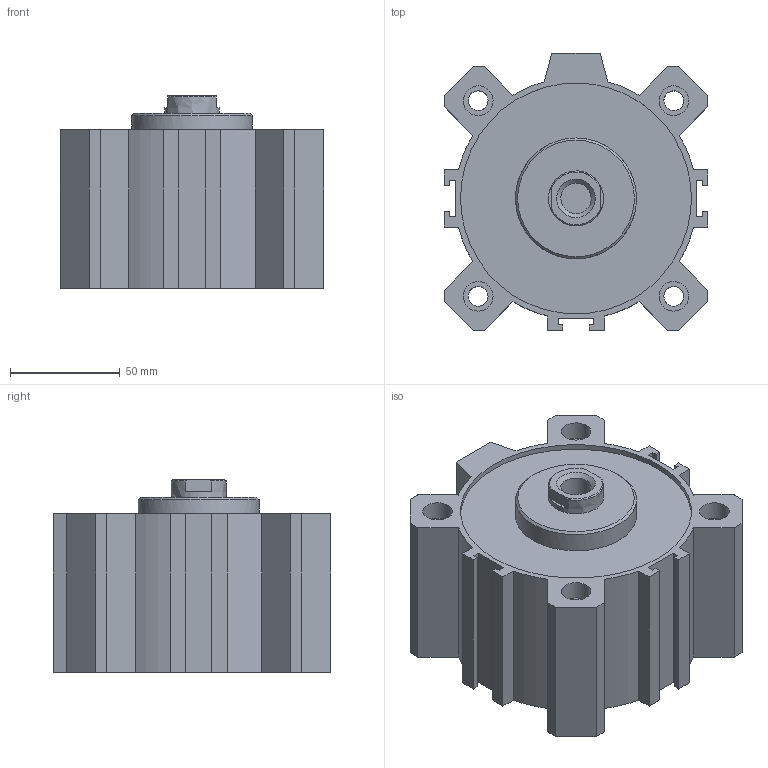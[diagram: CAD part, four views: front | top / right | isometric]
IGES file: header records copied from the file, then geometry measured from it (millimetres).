
Global section: file name: 1511_100_0020; native system: Autodesk Inventor 2014; preprocessor: unknown; author: A. Manieri; date: 20160824.162527; units: millimetre
Bounding box: 120 x 126 x 87.5 mm (x, y, z)
Volume: 683341.2 mm3; surface area: 136030.9 mm2
Topology: 2 solids, 2 shells, 119 faces, 307 edges, 210 vertices
Faces by surface type: bspline 119
